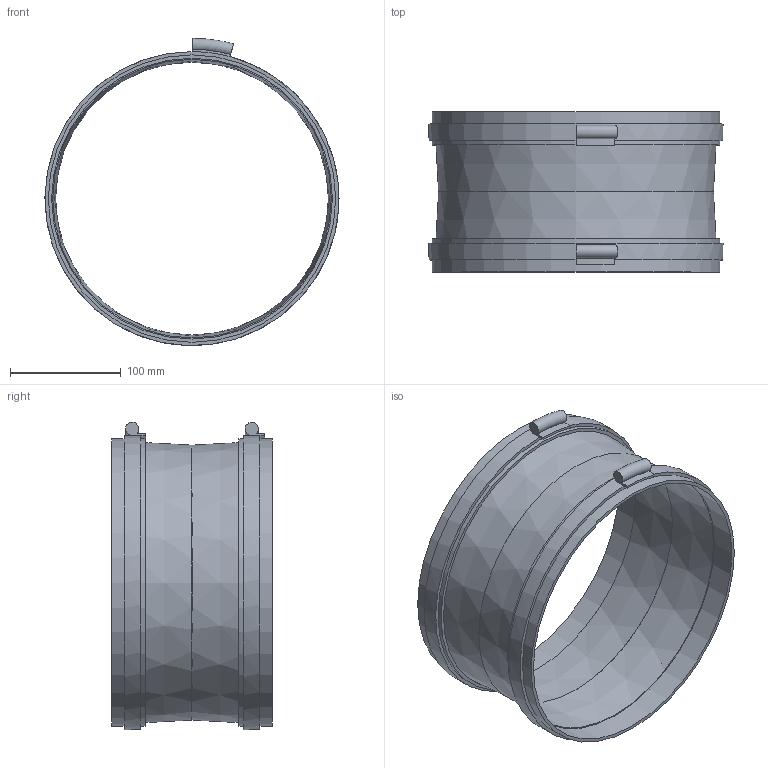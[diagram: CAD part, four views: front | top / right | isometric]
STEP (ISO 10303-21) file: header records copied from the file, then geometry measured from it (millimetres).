
FILE_DESCRIPTION(/* description */ (''),/* implementation_level */ '2;1');
FILE_NAME(/* name */ 'Z:\Output\FM_250_T120-01655-001.stp',/* time_stamp */ '2017-07-11T10:21:12+02:00',/* author */ ('jayeshpanchal'),/* organization */ (''),/* preprocessor_version */ 'ST-DEVELOPER v16.5',/* originating_system */ 'Autodesk Inventor 2017',/* authorisation */ '');
FILE_SCHEMA (('AUTOMOTIVE_DESIGN { 1 0 10303 214 3 1 1 }'));
Length unit declared in the file: millimetre
Products named in the file (1): FM-1
Bounding box: 266 x 145 x 277.98 mm (x, y, z)
Volume: 307938 mm3; surface area: 279558.4 mm2
Topology: 3 solids, 3 shells, 36 faces, 66 edges, 40 vertices
Faces by surface type: plane 16, cylinder 14, cone 4, torus 2
Full cylindrical faces by diameter (mm): 254 x4, 260 x4, 266 x2
Entity records: 883 total; most frequent: DIRECTION 162, CARTESIAN_POINT 129, ORIENTED_EDGE 108, AXIS2_PLACEMENT_3D 73, EDGE_LOOP 60, EDGE_CURVE 52, VERTEX_POINT 40, FACE_OUTER_BOUND 36
